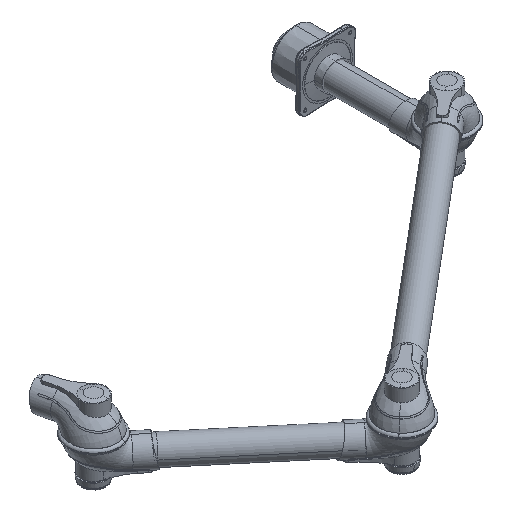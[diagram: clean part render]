
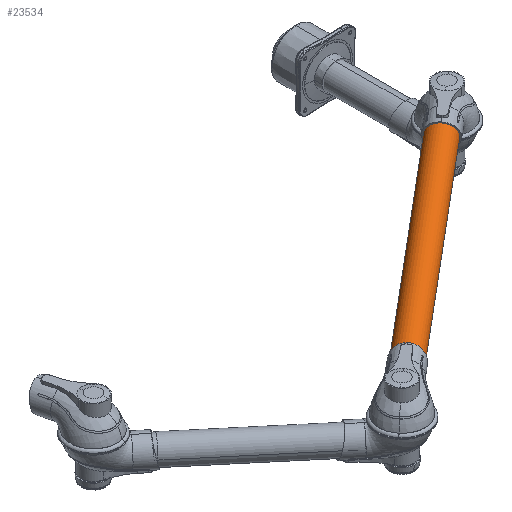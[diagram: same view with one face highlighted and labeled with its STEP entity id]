
A CAD part, isometric view. The second image highlights one B-rep face of the part: STEP entity #23534.
In plain terms, the highlighted cylindrical face has radius 26.3 mm (diameter 52.6 mm), a partial arc.
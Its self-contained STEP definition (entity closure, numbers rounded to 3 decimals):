
#23447=CARTESIAN_POINT('',(0.,0.,0.));
#23448=DIRECTION('',(1.,0.,0.));
#23449=DIRECTION('',(0.,1.,0.));
#23450=AXIS2_PLACEMENT_3D('',#23447,#23448,#23449);
#23455=DIRECTION('',(-1.,0.,0.));
#23456=VECTOR('',#23455,640.);
#23457=CARTESIAN_POINT('',(0.,26.3,0.));
#23458=LINE('',#23457,#23456);
#23462=DIRECTION('',(-1.,0.,0.));
#23463=VECTOR('',#23462,640.);
#23464=CARTESIAN_POINT('',(0.,-26.3,0.));
#23465=LINE('',#23464,#23463);
#23485=CARTESIAN_POINT('',(-640.,0.,0.));
#23486=DIRECTION('',(1.,0.,0.));
#23487=DIRECTION('',(0.,1.,0.));
#23488=AXIS2_PLACEMENT_3D('',#23485,#23486,#23487);
#23493=CARTESIAN_POINT('',(0.,26.3,0.));
#23494=CARTESIAN_POINT('',(-640.,26.3,0.));
#23495=VERTEX_POINT('',#23493);
#23496=VERTEX_POINT('',#23494);
#23497=CARTESIAN_POINT('',(0.,-26.3,0.));
#23498=CARTESIAN_POINT('',(-640.,-26.3,0.));
#23499=VERTEX_POINT('',#23497);
#23500=VERTEX_POINT('',#23498);
#23520=CARTESIAN_POINT('',(-672.,0.,0.));
#23521=DIRECTION('',(1.,0.,0.));
#23522=DIRECTION('',(0.,-1.,0.));
#23523=AXIS2_PLACEMENT_3D('',#23520,#23521,#23522);
#23524=CYLINDRICAL_SURFACE('',#23523,26.3);
#23526=ORIENTED_EDGE('',*,*,#23525,.F.);
#23527=ORIENTED_EDGE('',*,*,#23506,.T.);
#23529=ORIENTED_EDGE('',*,*,#23528,.T.);
#23531=ORIENTED_EDGE('',*,*,#23530,.F.);
#23532=EDGE_LOOP('',(#23526,#23527,#23529,#23531));
#23533=FACE_OUTER_BOUND('',#23532,.F.);
#23451=CIRCLE('',#23450,26.3);
#23489=CIRCLE('',#23488,26.3);
#23506=EDGE_CURVE('',#23495,#23499,#23451,.T.);
#23525=EDGE_CURVE('',#23495,#23496,#23458,.T.);
#23528=EDGE_CURVE('',#23499,#23500,#23465,.T.);
#23530=EDGE_CURVE('',#23496,#23500,#23489,.T.);
#23534=ADVANCED_FACE('',(#23533),#23524,.T.);
